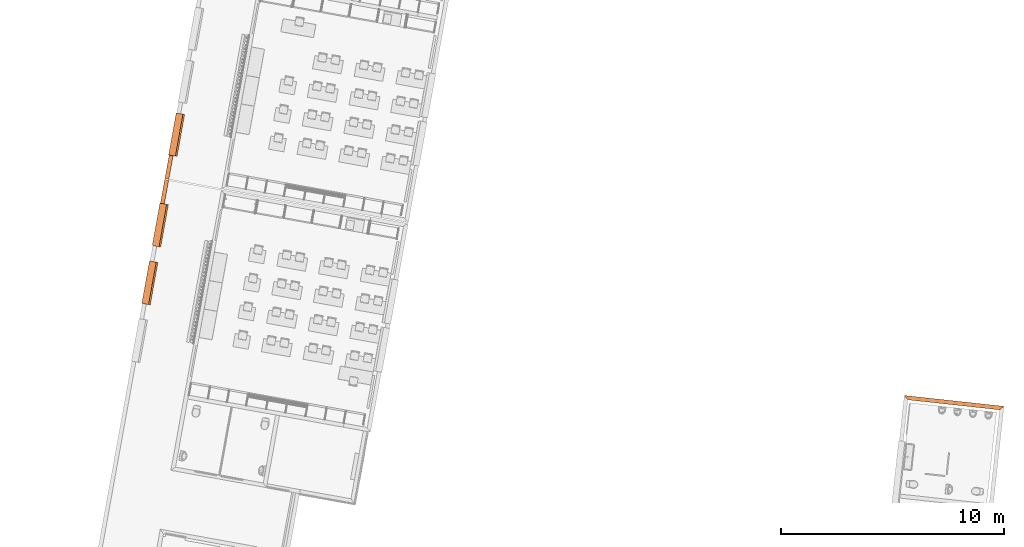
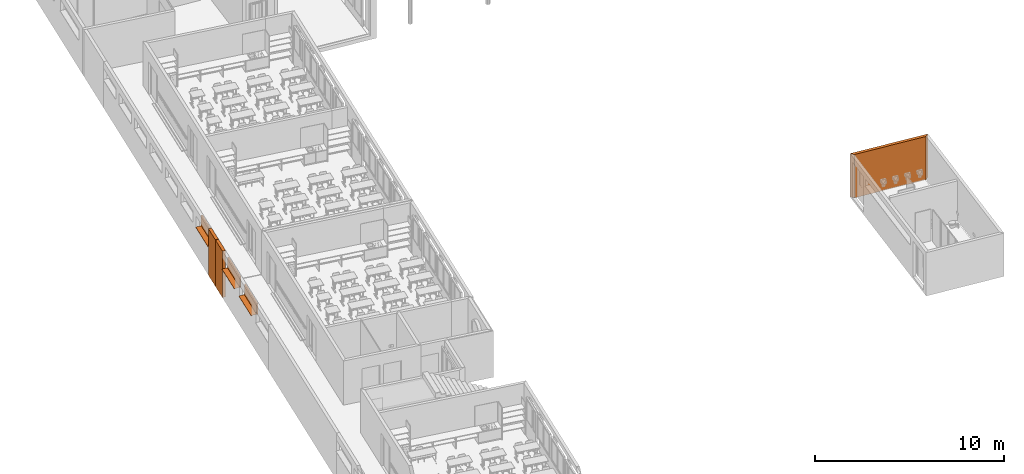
# One storey, part 38 of 79: 6 proxies.
"""IFC2X3 building model written with IfcOpenShell, lengths in metres."""

import ifcopenshell
import ifcopenshell.guid

model = None  # the IFC model being written
_history = None  # IfcOwnerHistory: only IFC2X3 demands one
_inside = {}  # id of a spatial element -> (the spatial element, [elements in it])
_under = {}  # id of a project, library or spatial element -> (it, [spatial elements below it])
_declared = {}  # id of a project -> (the project, [libraries it declares])
_typed = {}  # id of a type object -> (the type object, [elements of that type])
_made_of = {}  # id of a material, layer set ... -> (it, [elements and type objects made of it])


def new_model(schema):
    """Start an empty IFC model of exactly this schema.

    Asked for "IFC4X3", IfcOpenShell would pick the latest addendum, in which some entities
    have other attributes; the version numbers below select the first issue.
    IFC2X3 requires an IfcOwnerHistory on every rooted entity: one is made here for all.
    """
    global model, _history
    if schema == "IFC4X3":
        model = ifcopenshell.file(schema_version=(4, 3, 0, 0))
    else:
        model = ifcopenshell.file(schema=schema)
    _inside.clear()
    _under.clear()
    _declared.clear()
    _typed.clear()
    _made_of.clear()
    _history = None
    if model.schema == "IFC2X3":
        org = make("IfcOrganization", Name="unknown")
        user = make(
            "IfcPersonAndOrganization",
            ThePerson=make("IfcPerson", FamilyName="unknown"),
            TheOrganization=org,
        )
        app = make(
            "IfcApplication",
            ApplicationDeveloper=org,
            Version="unknown",
            ApplicationFullName="unknown",
            ApplicationIdentifier="unknown",
        )
        _history = make(
            "IfcOwnerHistory",
            OwningUser=user,
            OwningApplication=app,
            ChangeAction="ADDED",
            CreationDate=0,
        )
    return model


def make(cls, **values):
    """One entity of the class cls with the attributes given. An attribute that is None is left unset."""
    return model.create_entity(
        cls, **{name: value for name, value in values.items() if value is not None}
    )


def entity(cls, *values):
    """Any entity or typed value of the class cls, its attributes in the order of the schema. None: left unset."""
    e = model.create_entity(cls)
    for i, value in enumerate(values):
        if value is not None:
            e[i] = value
    return e


def rooted(cls, **values):
    """An entity with a GlobalId (a new one), such as an element, a storey or a relation."""
    return make(cls, GlobalId=ifcopenshell.guid.new(), OwnerHistory=_history, **values)


def si_unit(unit_type, name, prefix=None):
    """IfcSIUnit, for example si_unit("LENGTHUNIT", "METRE", prefix="MILLI")."""
    return make("IfcSIUnit", UnitType=unit_type, Prefix=prefix, Name=name)


def converted_unit(unit_type, name, factor, base, dimensions=None, offset=None):
    """IfcConversionBasedUnit, such as the inch: factor (a typed value) times the base unit."""
    return make(
        "IfcConversionBasedUnit"
        if offset is None
        else "IfcConversionBasedUnitWithOffset",
        ConversionOffset=offset,
        Dimensions=None
        if dimensions is None
        else entity("IfcDimensionalExponents", *dimensions),
        UnitType=unit_type,
        Name=name,
        ConversionFactor=make(
            "IfcMeasureWithUnit", ValueComponent=factor, UnitComponent=base
        ),
    )


def derived_unit(unit_type, elements):
    """IfcDerivedUnit: a product of units, each with its exponent."""
    return make(
        "IfcDerivedUnit",
        Elements=[
            make("IfcDerivedUnitElement", Unit=unit, Exponent=power)
            for unit, power in elements
        ],
        UnitType=unit_type,
    )


def money_unit(currency):
    """IfcMonetaryUnit."""
    return make("IfcMonetaryUnit", Currency=currency)


def assignment(units):
    """IfcUnitAssignment: the units of a project."""
    return None if units is None else make("IfcUnitAssignment", Units=units)


def point(xyz):
    """IfcCartesianPoint."""
    return None if xyz is None else make("IfcCartesianPoint", Coordinates=xyz)


def direction(xyz):
    """IfcDirection."""
    return None if xyz is None else make("IfcDirection", DirectionRatios=xyz)


def frame(location, z_axis=None, x_axis=None):
    """IfcAxis2Placement3D, a coordinate frame: its origin and axes. An axis left out is left unset."""
    return make(
        "IfcAxis2Placement3D",
        Location=point(location),
        Axis=direction(z_axis),
        RefDirection=direction(x_axis),
    )


def origin_with_axes():
    """The frame at (0, 0, 0) with the z axis (0, 0, 1) and the x axis (1, 0, 0) written out."""
    return frame((0.0, 0.0, 0.0), z_axis=(0.0, 0.0, 1.0), x_axis=(1.0, 0.0, 0.0))


def place(relative_to, where):
    """IfcLocalPlacement: puts the frame where relative to a parent placement (None: the world)."""
    return make(
        "IfcLocalPlacement", PlacementRelTo=relative_to, RelativePlacement=where
    )


def context(
    kind, dimensions, precision=None, world=None, true_north=None, identifier=None
):
    """IfcGeometricRepresentationContext, for example the 3D "Model" context."""
    return make(
        "IfcGeometricRepresentationContext",
        ContextIdentifier=identifier,
        ContextType=kind,
        CoordinateSpaceDimension=dimensions,
        Precision=precision,
        WorldCoordinateSystem=world,
        TrueNorth=true_north,
    )


def subcontext(parent, identifier, kind, view, scale=None):
    """IfcGeometricRepresentationSubContext, for example "Body" below "Model"."""
    return make(
        "IfcGeometricRepresentationSubContext",
        ContextIdentifier=identifier,
        ContextType=kind,
        ParentContext=parent,
        TargetScale=scale,
        TargetView=view,
    )


def project(units=None, contexts=None):
    """IfcProject with its units and contexts."""
    return rooted(
        "IfcProject",
        Name="project",
        RepresentationContexts=contexts,
        UnitsInContext=assignment(units),
    )


def spatial(cls, under=None, at=None, **own):
    """A site, building, storey or space (cls), placed at a placement, below another one or the project."""
    s = rooted(cls, ObjectPlacement=at, **own)
    if under is not None:
        _under.setdefault(under.id(), (under, []))[1].append(s)
    return s


def polyline(points):
    """IfcPolyline through the points."""
    return make("IfcPolyline", Points=[point(p) for p in points])


def outline(outer, holes=None, kind="AREA"):
    """IfcArbitraryClosedProfileDef: a profile drawn as a closed curve; with holes, ...WithVoids."""
    if holes is None:
        return make("IfcArbitraryClosedProfileDef", ProfileType=kind, OuterCurve=outer)
    return make(
        "IfcArbitraryProfileDefWithVoids",
        ProfileType=kind,
        OuterCurve=outer,
        InnerCurves=holes,
    )


def extrude(swept, where, along, depth):
    """IfcExtrudedAreaSolid: the profile swept, set in the frame where, extruded along a direction by depth."""
    return make(
        "IfcExtrudedAreaSolid",
        SweptArea=swept,
        Position=where,
        ExtrudedDirection=direction(along),
        Depth=depth,
    )


def faces_of(points, faces, orient=None, outer=None):
    """IfcFace entities. A face is a list of loops; a loop is a list of indices into points, from 0.

    orient and outer hold one flag for each loop. By default every Orientation is true, the
    first loop of a face is its IfcFaceOuterBound and the others are IfcFaceBound.
    """
    made = []
    for i, loops in enumerate(faces):
        bounds = []
        for j, loop in enumerate(loops):
            is_outer = j == 0 if outer is None else outer[i][j]
            bounds.append(
                make(
                    "IfcFaceOuterBound" if is_outer else "IfcFaceBound",
                    Bound=make("IfcPolyLoop", Polygon=[points[k] for k in loop]),
                    Orientation=True if orient is None else orient[i][j],
                )
            )
        made.append(make("IfcFace", Bounds=bounds))
    return made


def open_shell(faces, orient=None, outer=None):
    """The faces of one IfcOpenShell. surface_model builds it on its shared points."""
    return ("IfcOpenShell", faces, orient, outer)


def faceted_brep(points, faces, orient=None, outer=None, voids=None):
    """IfcFacetedBrep: a solid bounded by flat faces; with voids (closed shells), ...WithVoids."""
    shared = [point(p) for p in points]
    hull = make("IfcClosedShell", CfsFaces=faces_of(shared, faces, orient, outer))
    if voids is None:
        return make("IfcFacetedBrep", Outer=hull)
    return make(
        "IfcFacetedBrepWithVoids",
        Outer=hull,
        Voids=[
            make(cls, CfsFaces=faces_of(shared, fs, o, b)) for cls, fs, o, b in voids
        ],
    )


def surface_model(cls, points, shells):
    """IfcFaceBasedSurfaceModel or IfcShellBasedSurfaceModel (cls): surfaces that need not close."""
    shared = [point(p) for p in points]
    made = [make(c, CfsFaces=faces_of(shared, fs, o, b)) for c, fs, o, b in shells]
    if cls == "IfcFaceBasedSurfaceModel":
        return make(cls, FbsmFaces=made)
    return make(cls, SbsmBoundary=made)


def shape(context_of_items, identifier, shape_type, items):
    """IfcShapeRepresentation: the items that make up one representation, for example the "Body"."""
    return make(
        "IfcShapeRepresentation",
        ContextOfItems=context_of_items,
        RepresentationIdentifier=identifier,
        RepresentationType=shape_type,
        Items=items,
    )


def source(mapping_origin, context_of_items, identifier, shape_type, items):
    """IfcRepresentationMap: a shape defined once, which mapped items show again and again."""
    return make(
        "IfcRepresentationMap",
        MappingOrigin=mapping_origin,
        MappedRepresentation=shape(context_of_items, identifier, shape_type, items),
    )


def transform(
    local_origin,
    x_axis=None,
    y_axis=None,
    z_axis=None,
    scale=None,
    scale2=None,
    scale3=None,
    uniform=True,
):
    """IfcCartesianTransformationOperator3D, or its non-uniform kind. x_axis, y_axis, z_axis: its Axis1, 2, 3."""
    if uniform:
        return make(
            "IfcCartesianTransformationOperator3D",
            Axis1=direction(x_axis),
            Axis2=direction(y_axis),
            LocalOrigin=point(local_origin),
            Scale=scale,
            Axis3=direction(z_axis),
        )
    return make(
        "IfcCartesianTransformationOperator3DnonUniform",
        Axis1=direction(x_axis),
        Axis2=direction(y_axis),
        LocalOrigin=point(local_origin),
        Scale=scale,
        Axis3=direction(z_axis),
        Scale2=scale2,
        Scale3=scale3,
    )


def mapped(mapping_source, mapping_target):
    """IfcMappedItem: shows the shape of a source again, moved by a transform."""
    return make(
        "IfcMappedItem", MappingSource=mapping_source, MappingTarget=mapping_target
    )


def material(Name=None, Category=None):
    """IfcMaterial."""
    return make("IfcMaterial", Name=Name, Category=Category)


def made_of(thing, what):
    """Note that an element or type object is made of a material, layer set ...; save() writes the relation."""
    if what is not None:
        _made_of.setdefault(what.id(), (what, []))[1].append(thing)
    return thing


def type_object(cls, material=None, **own):
    """A type object (cls), such as IfcWallType, which elements share."""
    return made_of(rooted(cls, **own), material)


def element(
    cls,
    number,
    at=None,
    inside=None,
    cuts=None,
    type_object=None,
    material=None,
    context=None,
    identifier="Body",
    shape_type=None,
    held_by="IfcProductDefinitionShape",
    body=None,
    shapes=None,
    **own,
):
    """One element of the class cls, such as IfcWall. Its Tag is "e" and its number.

    at: its placement. inside: the storey or other place that contains it. cuts: it is an
    opening in that element (IfcRelVoidsElement). A single representation is given by context,
    identifier, shape_type and body (its items); several are given by shapes. held_by: the class
    of the entity that holds the representations. save() writes the other relations.
    """
    e = rooted(cls, Tag="e%d" % number, ObjectPlacement=at, **own)
    if body is not None:
        shapes = [shape(context, identifier, shape_type, body)]
    if shapes is not None:
        e.Representation = make(held_by, Representations=shapes)
    if inside is not None:
        _inside.setdefault(inside.id(), (inside, []))[1].append(e)
    if cuts is not None:
        rooted(
            "IfcRelVoidsElement", RelatingBuildingElement=cuts, RelatedOpeningElement=e
        )
    if type_object is not None:
        _typed.setdefault(type_object.id(), (type_object, []))[1].append(e)
    return made_of(e, material)


def aggregate(whole, parts):
    """IfcRelAggregates: a whole, such as a stair, and the parts it consists of."""
    return rooted("IfcRelAggregates", RelatingObject=whole, RelatedObjects=parts)


def save(model, path):
    """Write the relations noted so far, then the file.

    IfcRelAggregates (storeys below a building ...), IfcRelContainedInSpatialStructure (elements
    in a storey), IfcRelDefinesByType, IfcRelAssociatesMaterial and IfcRelDeclares: one each for
    every whole, place, type object, material and project.
    """
    for whole, parts in _under.values():
        aggregate(whole, parts)
    for where, things in _inside.values():
        rooted(
            "IfcRelContainedInSpatialStructure",
            RelatedElements=things,
            RelatingStructure=where,
        )
    for kind, things in _typed.values():
        rooted("IfcRelDefinesByType", RelatedObjects=things, RelatingType=kind)
    for what, things in _made_of.values():
        rooted("IfcRelAssociatesMaterial", RelatedObjects=things, RelatingMaterial=what)
    for by, libraries in _declared.values():
        rooted("IfcRelDeclares", RelatingContext=by, RelatedDefinitions=libraries)
    model.write(path)


model = new_model("IFC2X3")

# Units and contexts
model_context = context("Model", 3, precision=1e-05, world=origin_with_axes(), true_north=direction((0.0, 1.0)))
body_context = subcontext(model_context, "Body", "Model", "MODEL_VIEW")
ifc_project = project(units=[si_unit("LENGTHUNIT", "METRE"), si_unit("AREAUNIT", "SQUARE_METRE"), si_unit("VOLUMEUNIT", "CUBIC_METRE"), converted_unit("PLANEANGLEUNIT", "DEGREE", entity("IfcPlaneAngleMeasure", 0.0174532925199), si_unit("PLANEANGLEUNIT", "RADIAN"), dimensions=[0, 0, 0, 0, 0, 0, 0]), money_unit("CHF"), converted_unit("TIMEUNIT", "Year", entity("IfcTimeMeasure", 31556926.0), si_unit("TIMEUNIT", "SECOND"), dimensions=[0, 0, 1, 0, 0, 0, 0]), si_unit("MASSUNIT", "GRAM", prefix="KILO"), si_unit("THERMODYNAMICTEMPERATUREUNIT", "DEGREE_CELSIUS"), si_unit("LUMINOUSINTENSITYUNIT", "LUMEN"), si_unit("ENERGYUNIT", "JOULE", prefix="MEGA"), derived_unit("THERMALCONDUCTANCEUNIT", [(si_unit("POWERUNIT", "WATT"), 1), (si_unit("LENGTHUNIT", "METRE"), -1), (si_unit("THERMODYNAMICTEMPERATUREUNIT", "KELVIN"), -1)]), derived_unit("SPECIFICHEATCAPACITYUNIT", [(si_unit("ENERGYUNIT", "JOULE"), 1), (si_unit("MASSUNIT", "GRAM", prefix="KILO"), -1), (si_unit("THERMODYNAMICTEMPERATUREUNIT", "KELVIN"), -1)]), derived_unit("MASSDENSITYUNIT", [(si_unit("MASSUNIT", "GRAM", prefix="KILO"), 1), (si_unit("VOLUMEUNIT", "CUBIC_METRE"), -1)])], contexts=[model_context])

# Site, building, storey
site_placement = place(None, frame((0.0, 0.0, 0.0), z_axis=(0.0, 0.0, 1.0), x_axis=(-0.177771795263, -0.984071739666, 0.0)))
site = spatial("IfcSite", under=ifc_project, at=site_placement, Name="Site", CompositionType="ELEMENT")
building_placement = place(site_placement, origin_with_axes())
building = spatial("IfcBuilding", under=site, at=building_placement, Name="Bâtiment", CompositionType="ELEMENT")
storey_placement = place(building_placement, origin_with_axes())
storey = spatial("IfcBuildingStorey", under=building, at=storey_placement, Name="RDC", CompositionType="ELEMENT", Elevation=0.0)

# Proxies
ifc_material_1 = material(Name="Matériau de construction IFC")
building_element_proxy_type_1 = type_object("IfcBuildingElementProxyType", Name="Fenêtre variable 21", PredefinedType="NOTDEFINED")
shared_shape_1 = source(origin_with_axes(), body_context, "Body", "SurfaceModel", [
    surface_model("IfcShellBasedSurfaceModel", [(0.0, 0.284, 0.02), (0.0, 0.284, 0.01), (1.91, 0.284, 0.01), (1.91, 0.284, 0.02), (0.0, -0.025, -0.00087719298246), (1.91, -0.025, -0.00087719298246), (0.0, -0.025, -0.0308771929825), (1.91, -0.025, -0.0308771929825), (0.0, -0.0125, -0.0183771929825), (1.91, -0.0125, -0.0183771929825)], [open_shell([[[0, 1, 2, 3]], [[1, 4, 5, 2]], [[4, 6, 7, 5]], [[6, 8, 9, 7]]])]),
    faceted_brep([(0.075, 0.285, 0.625), (0.075, 0.36, 0.625), (0.0, 0.36, 0.625), (0.0, 0.285, 0.625), (0.075, 0.285, 0.075), (0.075, 0.36, 0.075), (0.0, 0.36, 0.075), (0.0, 0.285, 0.075)], [[[0, 1, 2, 3]], [[4, 5, 1, 0]], [[1, 5, 6, 2]], [[3, 2, 6, 7]], [[0, 3, 7, 4]], [[7, 6, 5, 4]]]),
    faceted_brep([(1.835, 0.285, 0.075), (1.835, 0.36, 0.075), (1.91, 0.36, 0.075), (1.91, 0.285, 0.075), (1.835, 0.285, 0.625), (1.835, 0.36, 0.625), (1.91, 0.36, 0.625), (1.91, 0.285, 0.625)], [[[0, 1, 2, 3]], [[4, 5, 1, 0]], [[1, 5, 6, 2]], [[3, 2, 6, 7]], [[0, 3, 7, 4]], [[7, 6, 5, 4]]]),
    faceted_brep([(0.075, 0.285, 0.075), (0.075, 0.36, 0.075), (0.0, 0.36, 0.075), (0.0, 0.285, 0.075), (1.835, 0.285, 0.075), (1.835, 0.36, 0.075), (1.91, 0.36, 0.075), (1.91, 0.36, 0.0), (0.0, 0.36, 0.0), (0.0, 0.285, 0.0), (1.91, 0.285, 0.0), (1.91, 0.285, 0.075)], [[[0, 1, 2, 3]], [[4, 5, 1, 0]], [[1, 5, 6, 7, 8, 2]], [[3, 2, 8, 9]], [[0, 3, 9, 10, 11, 4]], [[11, 6, 5, 4]], [[10, 7, 6, 11]], [[9, 8, 7, 10]]]),
    faceted_brep([(1.835, 0.285, 0.625), (1.835, 0.36, 0.625), (1.91, 0.36, 0.625), (1.91, 0.285, 0.625), (0.075, 0.285, 0.625), (0.075, 0.36, 0.625), (0.0, 0.36, 0.625), (0.0, 0.36, 0.7), (1.91, 0.36, 0.7), (1.91, 0.285, 0.7), (0.0, 0.285, 0.7), (0.0, 0.285, 0.625)], [[[0, 1, 2, 3]], [[4, 5, 1, 0]], [[1, 5, 6, 7, 8, 2]], [[3, 2, 8, 9]], [[0, 3, 9, 10, 11, 4]], [[11, 6, 5, 4]], [[10, 7, 6, 11]], [[9, 8, 7, 10]]]),
    surface_model("IfcShellBasedSurfaceModel", [(0.075, 0.285, 0.075), (1.835, 0.285, 0.075), (1.835, 0.285, 0.625), (0.075, 0.285, 0.625)], [open_shell([[[0, 1, 2, 3]]])]),
    surface_model("IfcShellBasedSurfaceModel", [(0.075, 0.305, 0.075), (0.075, 0.305, 0.625), (1.835, 0.305, 0.625), (1.835, 0.305, 0.075)], [open_shell([[[0, 1, 2, 3]]])]),
])
proxy_1_placement = place(storey_placement, frame((125.474841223, -159.217107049, 1.7), z_axis=(0.0, 0.0, 1.0), x_axis=(1.0, 0.0, 0.0)))
element("IfcBuildingElementProxy", 1, at=proxy_1_placement, inside=storey, type_object=building_element_proxy_type_1, material=ifc_material_1, Name="Fen couloir", context=body_context, shape_type="MappedRepresentation", body=[
    mapped(shared_shape_1, transform((0.0, 0.0, 0.0))),
])
ifc_material_2 = material(Name="_BA banché RAL9007")
building_element_proxy_type_2 = type_object("IfcBuildingElementProxyType", Name="_M ext 18 +18 360", PredefinedType="NOTDEFINED")
proxy_2_placement = place(storey_placement, frame((128.464841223, -159.217107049, -0.15), z_axis=(0.0, 0.0, 1.0), x_axis=(-1.0, 0.0, 0.0)))
element("IfcBuildingElementProxy", 2, at=proxy_2_placement, inside=storey, type_object=building_element_proxy_type_2, material=ifc_material_2, Name="M ext-Ouest", context=body_context, shape_type="SweptSolid", body=[
    extrude(outline(polyline([(0.0, -0.18), (1.07999999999, -0.18), (1.07999999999, 0.0), (0.0, 0.0), (0.0, -0.18)])), origin_with_axes(), (0.0, 0.0, 1.0), 3.0),
])
proxy_3_placement = place(storey_placement, frame((129.584841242, -159.217107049, -0.15), z_axis=(0.0, 0.0, 1.0), x_axis=(-1.0, 0.0, 0.0)))
element("IfcBuildingElementProxy", 3, at=proxy_3_placement, inside=storey, type_object=building_element_proxy_type_2, material=ifc_material_2, Name="M ext-Ouest", context=body_context, shape_type="SweptSolid", body=[
    extrude(outline(polyline([(0.0, -0.18), (1.0800000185, -0.18), (1.0800000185, 0.0), (0.0, 0.0), (0.0, -0.18)])), origin_with_axes(), (0.0, 0.0, 1.0), 3.0),
])
shared_shape_2 = source(origin_with_axes(), body_context, "Body", "SurfaceModel", [
    surface_model("IfcShellBasedSurfaceModel", [(0.0, 0.284, 0.02), (0.0, 0.284, 0.01), (1.935, 0.284, 0.01), (1.935, 0.284, 0.02), (0.0, -0.025, -0.00087719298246), (1.935, -0.025, -0.00087719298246), (0.0, -0.025, -0.0308771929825), (1.935, -0.025, -0.0308771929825), (0.0, -0.0125, -0.0183771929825), (1.935, -0.0125, -0.0183771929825)], [open_shell([[[0, 1, 2, 3]], [[1, 4, 5, 2]], [[4, 6, 7, 5]], [[6, 8, 9, 7]]])]),
    faceted_brep([(0.075, 0.285, 0.625), (0.075, 0.36, 0.625), (0.0, 0.36, 0.625), (0.0, 0.285, 0.625), (0.075, 0.285, 0.075), (0.075, 0.36, 0.075), (0.0, 0.36, 0.075), (0.0, 0.285, 0.075)], [[[0, 1, 2, 3]], [[4, 5, 1, 0]], [[1, 5, 6, 2]], [[3, 2, 6, 7]], [[0, 3, 7, 4]], [[7, 6, 5, 4]]]),
    faceted_brep([(1.86, 0.285, 0.075), (1.86, 0.36, 0.075), (1.935, 0.36, 0.075), (1.935, 0.285, 0.075), (1.86, 0.285, 0.625), (1.86, 0.36, 0.625), (1.935, 0.36, 0.625), (1.935, 0.285, 0.625)], [[[0, 1, 2, 3]], [[4, 5, 1, 0]], [[1, 5, 6, 2]], [[3, 2, 6, 7]], [[0, 3, 7, 4]], [[7, 6, 5, 4]]]),
    faceted_brep([(0.075, 0.285, 0.075), (0.075, 0.36, 0.075), (0.0, 0.36, 0.075), (0.0, 0.285, 0.075), (1.86, 0.285, 0.075), (1.86, 0.36, 0.075), (1.935, 0.36, 0.075), (1.935, 0.36, 0.0), (0.0, 0.36, 0.0), (0.0, 0.285, 0.0), (1.935, 0.285, 0.0), (1.935, 0.285, 0.075)], [[[0, 1, 2, 3]], [[4, 5, 1, 0]], [[1, 5, 6, 7, 8, 2]], [[3, 2, 8, 9]], [[0, 3, 9, 10, 11, 4]], [[11, 6, 5, 4]], [[10, 7, 6, 11]], [[9, 8, 7, 10]]]),
    faceted_brep([(1.86, 0.285, 0.625), (1.86, 0.36, 0.625), (1.935, 0.36, 0.625), (1.935, 0.285, 0.625), (0.075, 0.285, 0.625), (0.075, 0.36, 0.625), (0.0, 0.36, 0.625), (0.0, 0.36, 0.7), (1.935, 0.36, 0.7), (1.935, 0.285, 0.7), (0.0, 0.285, 0.7), (0.0, 0.285, 0.625)], [[[0, 1, 2, 3]], [[4, 5, 1, 0]], [[1, 5, 6, 7, 8, 2]], [[3, 2, 8, 9]], [[0, 3, 9, 10, 11, 4]], [[11, 6, 5, 4]], [[10, 7, 6, 11]], [[9, 8, 7, 10]]]),
    surface_model("IfcShellBasedSurfaceModel", [(0.075, 0.285, 0.075), (1.86, 0.285, 0.075), (1.86, 0.285, 0.625), (0.075, 0.285, 0.625)], [open_shell([[[0, 1, 2, 3]]])]),
    surface_model("IfcShellBasedSurfaceModel", [(0.075, 0.305, 0.075), (0.075, 0.305, 0.625), (1.86, 0.305, 0.625), (1.86, 0.305, 0.075)], [open_shell([[[0, 1, 2, 3]]])]),
])
for number, where, z_axis, x_axis, name in (
    (4, (129.584841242, -159.217107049, 1.7), (0.0, 0.0, 1.0), (1.0, 0.0, 0.0), "Fen couloir"),
    (5, (132.219841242, -159.217107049, 1.7), (0.0, 0.0, 1.0), (1.0, 0.0, 0.0), "Fen couloir"),
):
    element("IfcBuildingElementProxy", number, at=place(storey_placement, frame(where, z_axis=z_axis, x_axis=x_axis)), inside=storey, type_object=building_element_proxy_type_1, material=ifc_material_1, Name=name, context=body_context, shape_type="MappedRepresentation", body=[
        mapped(shared_shape_2, transform((0.0, 0.0, 0.0))),
    ])
ifc_material_3 = material(Name="_BA banché")
building_element_proxy_type_3 = type_object("IfcBuildingElementProxyType", Name="_M ext 18 +12 300", PredefinedType="NOTDEFINED")
proxy_4_placement = place(storey_placement, frame((132.138204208, -124.845376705, -0.1), z_axis=(0.0, 0.0, 1.0), x_axis=(-0.0700487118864, 0.997543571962, 0.0)))
element("IfcBuildingElementProxy", 6, at=proxy_4_placement, inside=storey, type_object=building_element_proxy_type_3, material=ifc_material_3, Name="M-Ext_BlocSanit", context=body_context, shape_type="SweptSolid", body=[
    extrude(outline(polyline([(0.18, -0.18), (4.31999998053, -0.18), (4.49999999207, 0.0), (0.0, 0.0), (0.18, -0.18)])), origin_with_axes(), (0.0, 0.0, 1.0), 2.8),
])

save(model, "model.ifc")
